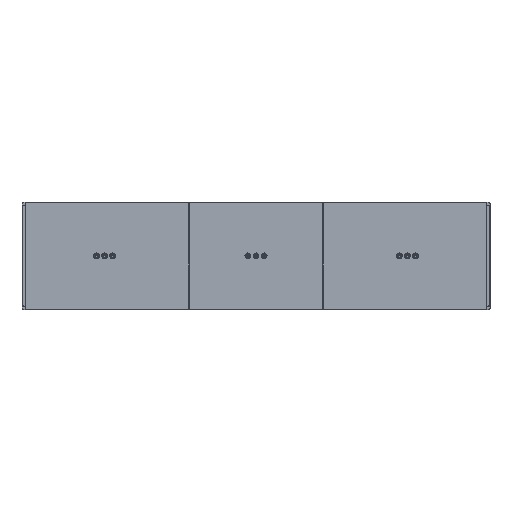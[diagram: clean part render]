
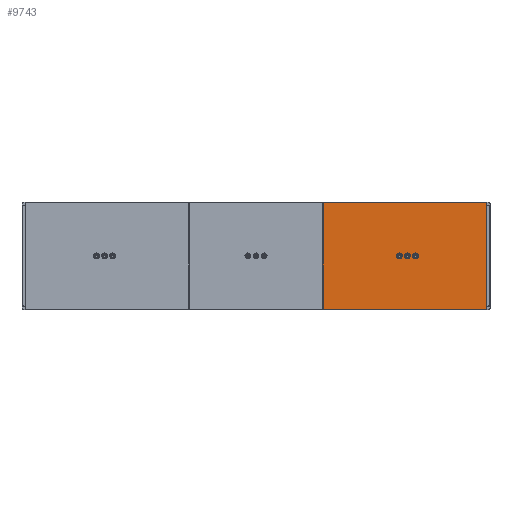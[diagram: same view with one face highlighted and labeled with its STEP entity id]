
A CAD part, top view. The second image highlights one B-rep face of the part: STEP entity #9743.
In plain terms, the highlighted planar face has unit normal (0, 0, 1).
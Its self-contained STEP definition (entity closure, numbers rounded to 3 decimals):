
#9678=CARTESIAN_POINT('',(2588.5,-598.5,750.));
#9679=VERTEX_POINT('',#9678);
#9680=CARTESIAN_POINT('',(2588.5,598.5,750.));
#9681=VERTEX_POINT('',#9680);
#9682=CARTESIAN_POINT('',(2588.5,-598.5,750.));
#9683=DIRECTION('',(0.,1.,0.));
#9684=VECTOR('',#9683,1197.);
#9685=LINE('',#9682,#9684);
#9686=EDGE_CURVE('',#9679,#9681,#9685,.T.);
#9713=CARTESIAN_POINT('',(1670.25,0.,750.));
#9714=DIRECTION('',(-1.,0.,0.));
#9715=DIRECTION('',(0.,0.,1.));
#9716=AXIS2_PLACEMENT_3D('',#9713,#9715,#9714);
#9717=PLANE('',#9716);
#9718=ORIENTED_EDGE('',*,*,#9686,.T.);
#9719=CARTESIAN_POINT('',(752.,598.5,750.));
#9720=VERTEX_POINT('',#9719);
#9721=CARTESIAN_POINT('',(2588.5,598.5,750.));
#9722=DIRECTION('',(-1.,0.,0.));
#9723=VECTOR('',#9722,1836.5);
#9724=LINE('',#9721,#9723);
#9725=EDGE_CURVE('',#9681,#9720,#9724,.T.);
#9726=ORIENTED_EDGE('E572',*,*,#9725,.T.);
#9727=CARTESIAN_POINT('',(752.,-598.5,750.));
#9728=VERTEX_POINT('',#9727);
#9729=CARTESIAN_POINT('',(752.,598.5,750.));
#9730=DIRECTION('',(0.,-1.,0.));
#9731=VECTOR('',#9730,1197.);
#9732=LINE('',#9729,#9731);
#9733=EDGE_CURVE('',#9720,#9728,#9732,.T.);
#9734=ORIENTED_EDGE('E782',*,*,#9733,.T.);
#9735=CARTESIAN_POINT('',(752.,-598.5,750.));
#9736=DIRECTION('',(1.,0.,0.));
#9737=VECTOR('',#9736,1836.5);
#9738=LINE('',#9735,#9737);
#9739=EDGE_CURVE('',#9728,#9679,#9738,.T.);
#9740=ORIENTED_EDGE('E781',*,*,#9739,.T.);
#9741=EDGE_LOOP('',(#9718,#9726,#9734,#9740));
#9742=FACE_OUTER_BOUND('',#9741,.T.);
#9743=ADVANCED_FACE('F314',(#9742),#9717,.T.);
